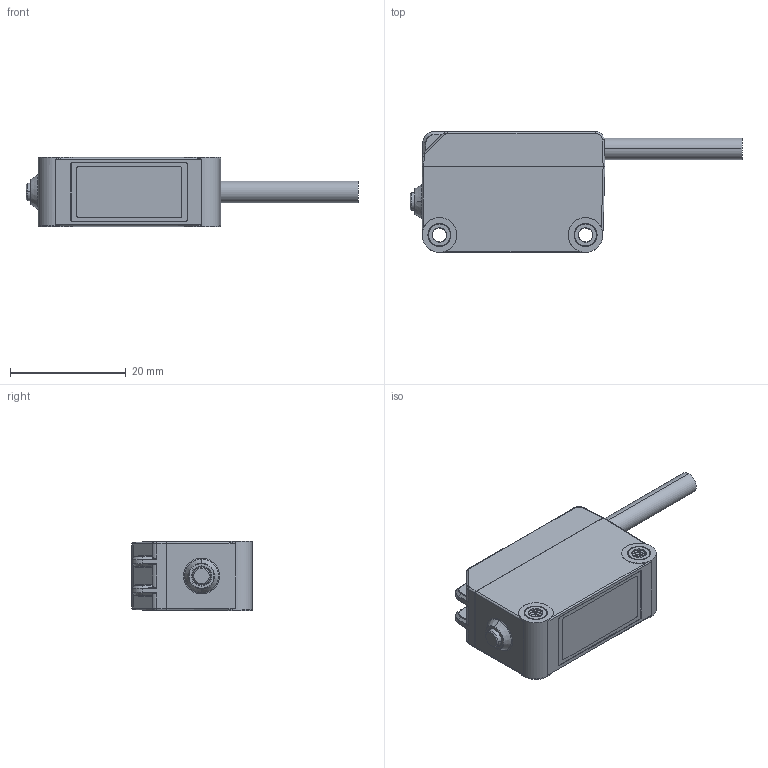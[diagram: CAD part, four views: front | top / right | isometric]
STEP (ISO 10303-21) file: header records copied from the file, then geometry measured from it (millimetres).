
FILE_DESCRIPTION((''),'2;1');
FILE_NAME('00','2024-04-28T14:18:44',('gz'),(''),'CREO PARAMETRIC BY PTC INC, 2020154','CREO PARAMETRIC BY PTC INC, 2020154','');
FILE_SCHEMA(('AUTOMOTIVE_DESIGN { 1 0 10303 214 1 1 1 1 }'));
Products named in the file (1): 00
Bounding box: 57.47 x 20.9 x 12 mm (x, y, z)
Surface area: 7685.7 mm2 (no closed solid volume)
Topology: 0 solids, 8 shells, 2009 faces, 5573 edges, 3599 vertices
Faces by surface type: plane 1144, cylinder 526, bspline 153, cone 95, torus 82, sphere 9
Entity records: 102333 total; most frequent: CARTESIAN_POINT 39364, ORIENTED_EDGE 11130, DIRECTION 8830, EDGE_CURVE 5565, VECTOR 3850, LINE 3850, VERTEX_POINT 3599, AXIS2_PLACEMENT_3D 2490
